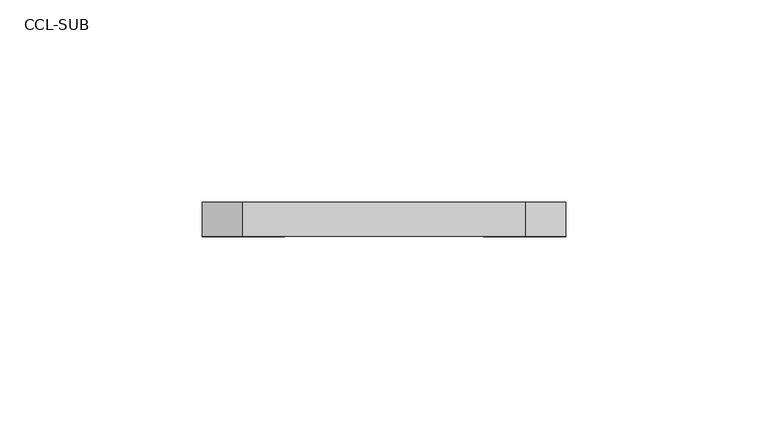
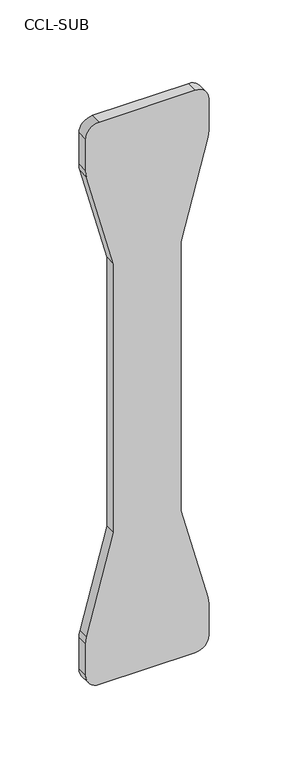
"""IFC4 building model written with IfcOpenShell, lengths in millimetres: proxy geometry, d&b CL-Series CCL-SUB : CCL-SUB."""

from ifc_helpers import new_model, si_unit, point, frame, frame_2d, origin, place, context, project, spatial, polyline, circle_curve, trimmed, segment, composite_curve, outline, extrude, source, transform, mapped, element, save


def ccl_sub_fae7e5b5(model_context):
    return source(origin(), model_context, "Body", "SweptSolid", [
        extrude(outline(composite_curve([segment(trimmed(circle_curve(frame_2d((437.4539639, 2465.0)), 10.0), [point((447.4539639, 2465.0))], [point((437.4539639, 2455.0))], False, "CARTESIAN"), True, "CONTINUOUS"), segment(polyline([(437.4539639, 2455.0), (413.1635286, 2455.0)]), True, "CONTINUOUS"), segment(trimmed(circle_curve(frame_2d((413.1635286, 2475.5811876)), 20.5811876), [point((413.1635286, 2455.0))], [point((407.8367253, 2455.701287))], False, "CARTESIAN"), True, "CONTINUOUS"), segment(polyline([(407.8367253, 2455.701287), (334.1404454, 2475.4481457), (126.7674824, 2475.4481457), (53.0712025, 2455.701287)]), True, "CONTINUOUS"), segment(trimmed(circle_curve(frame_2d((47.7443991, 2475.5811876)), 20.5811876), [point((53.0712025, 2455.701287))], [point((47.7443991, 2455.0))], False, "CARTESIAN"), True, "CONTINUOUS"), segment(polyline([(47.7443991, 2455.0), (23.4539639, 2455.0)]), True, "CONTINUOUS"), segment(trimmed(circle_curve(frame_2d((23.4539639, 2465.0)), 10.0), [point((23.4539639, 2455.0))], [point((13.4539639, 2465.0))], False, "CARTESIAN"), True, "CONTINUOUS"), segment(polyline([(13.4539639, 2465.0), (13.4539639, 2535.0)]), True, "CONTINUOUS"), segment(trimmed(circle_curve(frame_2d((23.4539639, 2535.0)), 10.0), [point((13.4539639, 2535.0))], [point((23.4539639, 2545.0))], False, "CARTESIAN"), True, "CONTINUOUS"), segment(polyline([(23.4539639, 2545.0), (47.7443991, 2545.0)]), True, "CONTINUOUS"), segment(trimmed(circle_curve(frame_2d((47.7443991, 2524.4188124)), 20.5811876), [point((47.7443991, 2545.0))], [point((53.0712025, 2544.298713))], False, "CARTESIAN"), True, "CONTINUOUS"), segment(polyline([(53.0712025, 2544.298713), (126.7674824, 2524.5518543), (334.1404454, 2524.5518543), (407.8367253, 2544.298713)]), True, "CONTINUOUS"), segment(trimmed(circle_curve(frame_2d((413.1635286, 2524.4188124)), 20.5811876), [point((407.8367253, 2544.298713))], [point((413.1635286, 2545.0))], False, "CARTESIAN"), True, "CONTINUOUS"), segment(polyline([(413.1635286, 2545.0), (437.4539639, 2545.0)]), True, "CONTINUOUS"), segment(trimmed(circle_curve(frame_2d((437.4539639, 2535.0)), 10.0), [point((437.4539639, 2545.0))], [point((447.4539639, 2535.0))], False, "CARTESIAN"), True, "CONTINUOUS"), segment(polyline([(447.4539639, 2535.0), (447.4539639, 2465.0)]), True, "CONTINUOUS")], self_intersect=False)), frame((0.0, 599.4505973, 0.0), z_axis=(0.0, 1.0, 0.0), x_axis=(0.0, 0.0, 1.0)), (0.0, 0.0, 1.0), 8.5),
    ])


if __name__ == "__main__":
    model = new_model("IFC4")
    model_context = context("Model", 3, world=origin())
    ifc_project = project(units=[si_unit("LENGTHUNIT", "METRE", prefix="MILLI")], contexts=[model_context])
    site = spatial("IfcSite", under=ifc_project)
    building = spatial("IfcBuilding", under=site)
    placement = place(None, origin())
    ccl_sub_shape = ccl_sub_fae7e5b5(model_context)
    element("IfcBuildingElementProxy", 1, Name="d&b CL-Series CCL-SUB : CCL-SUB", ObjectType="d&b CL-Series CCL-SUB : CCL-SUB", at=placement, inside=building, context=model_context, shape_type="MappedRepresentation", body=[
        mapped(ccl_sub_shape, transform((0.0, 0.0, 0.0), x_axis=(1.0, 0.0, 0.0), y_axis=(0.0, 1.0, 0.0), z_axis=(0.0, 0.0, 1.0))),
    ])
    save(model, "model.ifc")
